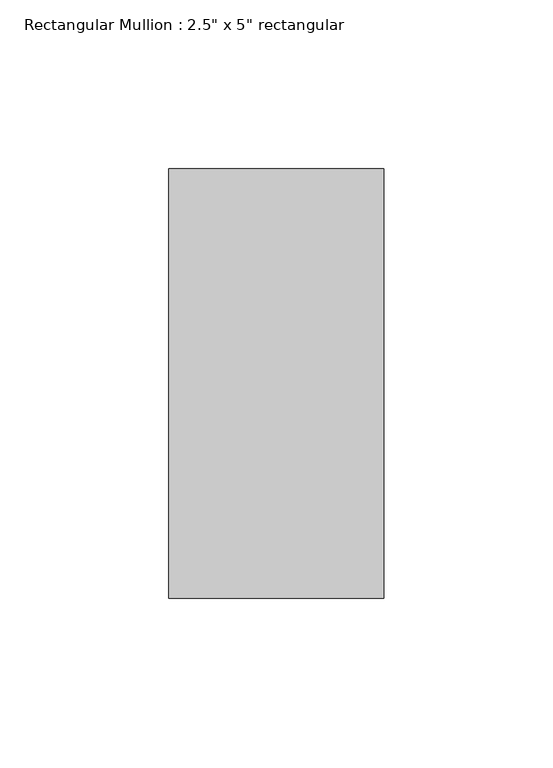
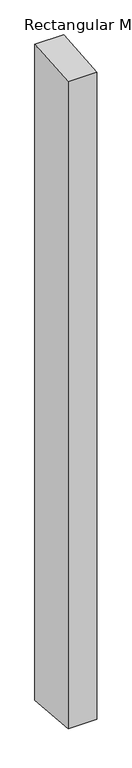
"""IFC4 building model written with IfcOpenShell, lengths in millimetres: member geometry."""

from ifc_helpers import new_model, si_unit, origin, place, context, project, spatial, faceted_brep, source, transform, mapped, element, save


def member_3d2e33c7(model_context):
    return source(origin(), model_context, "Body", "Brep", [
        faceted_brep([(-63.5, 63.5, 5.2188552), (0.0, 63.5, 5.3093653), (0.0, 63.5, -1529.3093653), (-63.5, 63.5, -1529.2188552), (-63.5, -63.5, -5.3998755), (-63.5, -63.5, -1518.6001245), (0.0, -63.5, -5.3093653), (0.0, -63.5, -1518.6906347)], [[[0, 1, 2, 3]], [[4, 0, 3, 5]], [[6, 4, 5, 7]], [[1, 6, 7, 2]], [[1, 0, 4, 6]], [[2, 7, 5, 3]]]),
    ])


if __name__ == "__main__":
    model = new_model("IFC4")
    model_context = context("Model", 3, world=origin())
    ifc_project = project(units=[si_unit("LENGTHUNIT", "METRE", prefix="MILLI")], contexts=[model_context])
    site = spatial("IfcSite", under=ifc_project)
    building = spatial("IfcBuilding", under=site)
    placement = place(None, origin())
    member_shape = member_3d2e33c7(model_context)
    element("IfcMember", 1, ObjectType="Rectangular Mullion : 2.5\" x 5\" rectangular", at=placement, inside=building, context=model_context, shape_type="MappedRepresentation", body=[
        mapped(member_shape, transform((0.0, 0.0, 0.0), x_axis=(1.0, 0.0, 0.0), y_axis=(0.0, 1.0, 0.0), z_axis=(0.0, 0.0, 1.0))),
    ])
    save(model, "model.ifc")
